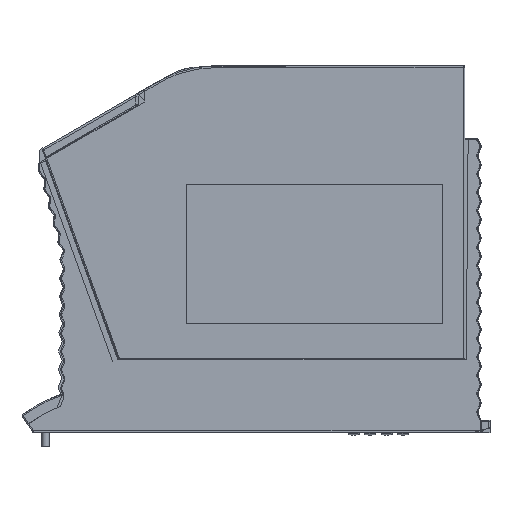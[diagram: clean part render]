
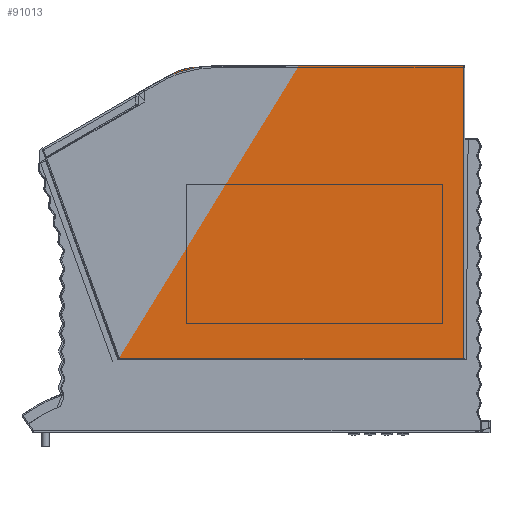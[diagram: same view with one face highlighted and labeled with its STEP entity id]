
A CAD part, front view. The second image highlights one B-rep face of the part: STEP entity #91013.
In plain terms, the highlighted planar face has unit normal (0, -1, 0).
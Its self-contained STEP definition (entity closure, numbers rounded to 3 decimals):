
#90318=DIRECTION('',(-0.001,0.,1.));
#90319=VECTOR('',#90318,0.376);
#90320=CARTESIAN_POINT('',(-31.08,-20.,
43.792));
#90321=LINE('',#90320,#90319);
#90322=CARTESIAN_POINT('',(56.,-20.001,
53.7));
#90323=CARTESIAN_POINT('',(41.702,-20.,
53.7));
#90324=CARTESIAN_POINT('',(25.881,-20.001,
53.702));
#90325=CARTESIAN_POINT('',(6.688,-20.,
53.691));
#90326=CARTESIAN_POINT('',(1.458,-20.,
53.686));
#90327=CARTESIAN_POINT('',(-4.549,-19.999,
53.669));
#90328=CARTESIAN_POINT('',(-7.284,-19.999,
53.657));
#90329=CARTESIAN_POINT('',(-10.991,-19.999,
53.612));
#90330=CARTESIAN_POINT('',(-12.909,-19.999,
53.576));
#90331=CARTESIAN_POINT('',(-15.428,-19.999,
53.47));
#90332=CARTESIAN_POINT('',(-16.854,-19.999,
53.377));
#90333=CARTESIAN_POINT('',(-18.411,-19.999,
53.197));
#90334=CARTESIAN_POINT('',(-19.39,-19.999,
53.041));
#90335=CARTESIAN_POINT('',(-20.251,-19.999,
52.837));
#90336=CARTESIAN_POINT('',(-21.,-19.999,
52.619));
#90337=CARTESIAN_POINT('',(-21.541,-19.999,
52.422));
#90338=CARTESIAN_POINT('',(-22.227,-19.999,
52.129));
#90339=CARTESIAN_POINT('',(-22.579,-19.999,
51.96));
#90340=CARTESIAN_POINT('',(-23.147,-19.999,
51.665));
#90341=CARTESIAN_POINT('',(-23.453,-19.999,
51.497));
#90342=CARTESIAN_POINT('',(-24.369,-19.999,
50.989));
#90343=CARTESIAN_POINT('',(-25.04,-19.999,
50.616));
#90344=CARTESIAN_POINT('',(-27.48,-19.998,
49.26));
#90345=CARTESIAN_POINT('',(-29.294,-19.999,
48.252));
#90346=CARTESIAN_POINT('',(-31.08,-19.999,
47.261));
#90348=DIRECTION('',(0.,0.,1.));
#90349=VECTOR('',#90348,80.);
#90350=CARTESIAN_POINT('',(56.,-20.,
-26.3));
#90351=LINE('',#90350,#90349);
#90352=DIRECTION('',(1.,0.,0.));
#90353=VECTOR('',#90352,94.098);
#90354=CARTESIAN_POINT('',(-38.098,-20.,
-26.3));
#90355=LINE('',#90354,#90353);
#90356=DIRECTION('',(0.342,0.,-0.94));
#90357=VECTOR('',#90356,58.065);
#90358=CARTESIAN_POINT('',(-57.958,-20.,
28.264));
#90359=LINE('',#90358,#90357);
#90360=DIRECTION('',(-0.866,0.,-0.5));
#90361=VECTOR('',#90360,31.041);
#90362=CARTESIAN_POINT('',(-31.08,-20.,
43.792));
#90363=LINE('',#90362,#90361);
#90373=DIRECTION('',(0.,0.,1.));
#90374=VECTOR('',#90373,3.092);
#90375=CARTESIAN_POINT('',(-31.08,-20.,
44.169));
#90376=LINE('',#90375,#90374);
#90794=CARTESIAN_POINT('',(-31.08,-20.,
44.169));
#90795=CARTESIAN_POINT('',(-31.08,-20.,
43.792));
#90796=VERTEX_POINT('',#90794);
#90797=VERTEX_POINT('',#90795);
#90798=CARTESIAN_POINT('',(56.,-20.,
-26.3));
#90800=VERTEX_POINT('',#90798);
#90858=VERTEX_POINT('',#90322);
#90859=VERTEX_POINT('',#90346);
#90881=CARTESIAN_POINT('',(-57.958,-20.,
28.264));
#90882=VERTEX_POINT('',#90881);
#90884=CARTESIAN_POINT('',(-38.098,-20.,
-26.3));
#90885=VERTEX_POINT('',#90884);
#90993=CARTESIAN_POINT('',(-0.979,-20.,
13.7));
#90994=DIRECTION('',(0.,1.,0.));
#90995=DIRECTION('',(0.,0.,-1.));
#90996=AXIS2_PLACEMENT_3D('',#90993,#90994,#90995);
#90997=PLANE('',#90996);
#90999=ORIENTED_EDGE('',*,*,#90998,.T.);
#91001=ORIENTED_EDGE('',*,*,#91000,.T.);
#91002=ORIENTED_EDGE('',*,*,#90967,.F.);
#91004=ORIENTED_EDGE('',*,*,#91003,.F.);
#91006=ORIENTED_EDGE('',*,*,#91005,.F.);
#91008=ORIENTED_EDGE('',*,*,#91007,.F.);
#91010=ORIENTED_EDGE('',*,*,#91009,.F.);
#91011=EDGE_LOOP('',(#90999,#91001,#91002,#91004,#91006,#91008,#91010));
#91012=FACE_OUTER_BOUND('',#91011,.F.);
#91013=ADVANCED_FACE('',(#91012),#90997,.F.);
#90347=B_SPLINE_CURVE_WITH_KNOTS('',3,(#90322,#90323,#90324,#90325,#90326,
#90327,#90328,#90329,#90330,#90331,#90332,#90333,#90334,#90335,#90336,#90337,
#90338,#90339,#90340,#90341,#90342,#90343,#90344,#90345,#90346),.UNSPECIFIED.,
.F.,.F.,(4,1,1,1,1,1,1,1,1,1,1,1,1,1,1,1,1,1,1,1,1,1,4),(0.,0.486,
0.533,0.652,0.664,0.737,
0.744,0.79,0.802,0.83,
0.838,0.855,0.863,0.868,
0.881,0.883,0.894,0.894,
0.905,0.905,0.93,0.931,1.),
.UNSPECIFIED.);
#90967=EDGE_CURVE('',#90858,#90859,#90347,.T.);
#90998=EDGE_CURVE('',#90797,#90796,#90321,.T.);
#91000=EDGE_CURVE('',#90796,#90859,#90376,.T.);
#91003=EDGE_CURVE('',#90800,#90858,#90351,.T.);
#91005=EDGE_CURVE('',#90885,#90800,#90355,.T.);
#91007=EDGE_CURVE('',#90882,#90885,#90359,.T.);
#91009=EDGE_CURVE('',#90797,#90882,#90363,.T.);
